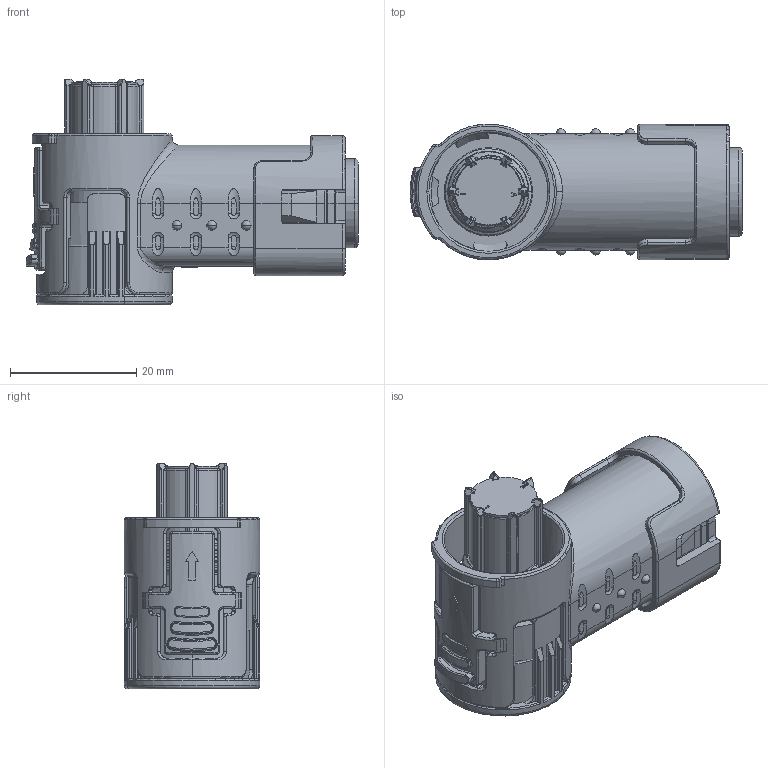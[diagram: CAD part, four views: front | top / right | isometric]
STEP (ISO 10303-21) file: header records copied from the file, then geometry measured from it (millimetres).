
FILE_DESCRIPTION((''),'2;1');
FILE_NAME('21G0-00115-AF_ASM','2022-03-21T13:26:38',('liuxul'),(''),'CREO PARAMETRIC BY PTC INC, 2019224','CREO PARAMETRIC BY PTC INC, 2019224','');
FILE_SCHEMA(('CONFIG_CONTROL_DESIGN'));
Products named in the file (1): 21G0-00115-AF_ASM
Bounding box: 52.63 x 21.5 x 35.8 mm (x, y, z)
Volume: 18111.9 mm3; surface area: 10714.3 mm2
Topology: 1 solids, 8 shells, 1606 faces, 4261 edges, 2663 vertices
Faces by surface type: plane 655, cylinder 386, bspline 280, torus 118, cone 94, sphere 64, extrusion 9
Entity records: 63520 total; most frequent: CARTESIAN_POINT 26296, ORIENTED_EDGE 8470, DIRECTION 6730, EDGE_CURVE 4249, VERTEX_POINT 2663, AXIS2_PLACEMENT_3D 2314, VECTOR 2102, LINE 2093
